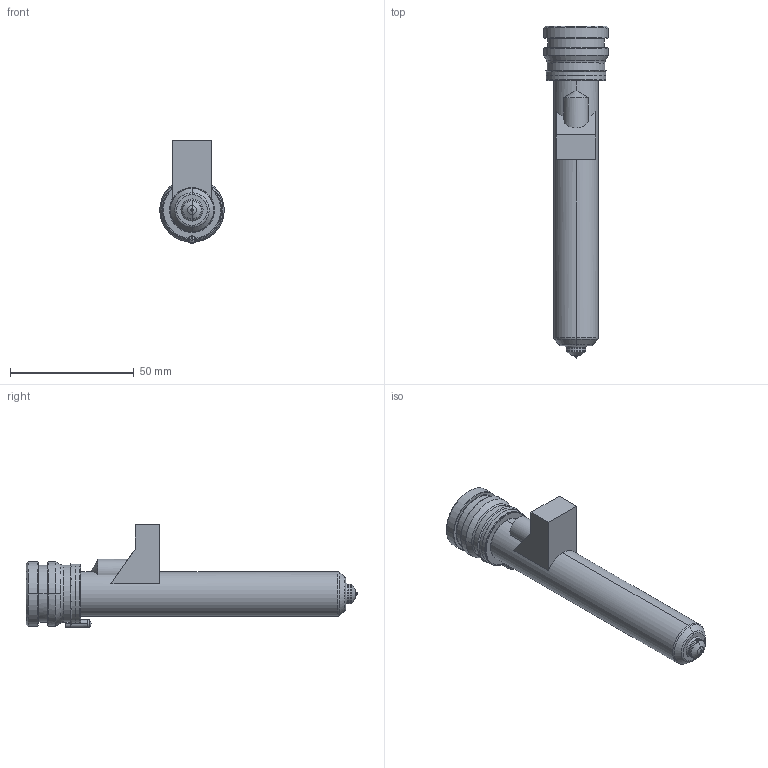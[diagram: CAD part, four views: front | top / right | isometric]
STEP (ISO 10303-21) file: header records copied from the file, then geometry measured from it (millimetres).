
FILE_DESCRIPTION((''),'2;1');
FILE_NAME('MPN-08-24-VSA8-116-M','2026-02-05T13:34:28',('UPTIO'),('Thermoplay S.p.A.'),'CREO PARAMETRIC BY PTC INC, 2023494','CREO PARAMETRIC BY PTC INC, 2023494','');
FILE_SCHEMA(('CONFIG_CONTROL_DESIGN','SHAPE_APPEARANCE_LAYERS_GROUPS'));
Length unit declared in the file: millimetre
Products named in the file (1): MPN-08-24-VSA8-116-M
Bounding box: 26 x 134 x 41.5 mm (x, y, z)
Volume: 26219.1 mm3; surface area: 34556.4 mm2
Topology: 2 solids, 3 shells, 527 faces, 1374 edges, 846 vertices
Faces by surface type: cylinder 176, plane 143, bspline 75, torus 60, cone 58, sphere 9, extrusion 6
Entity records: 27000 total; most frequent: CARTESIAN_POINT 11521, ORIENTED_EDGE 2730, DIRECTION 2497, EDGE_CURVE 1365, AXIS2_PLACEMENT_3D 975, VERTEX_POINT 846, EDGE_LOOP 557, VECTOR 547
